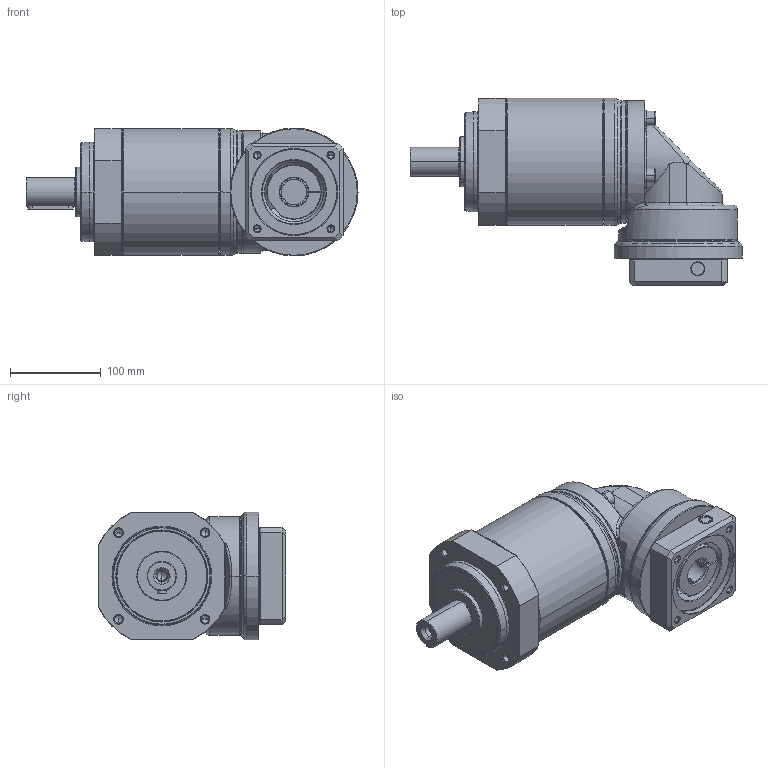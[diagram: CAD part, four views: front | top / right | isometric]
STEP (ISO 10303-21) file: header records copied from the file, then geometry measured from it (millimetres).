
FILE_DESCRIPTION((''),'2;1');
FILE_NAME('PS2R-E_2ST_28-P0411600101_ASM','2016-06-01T',('d01943'),(''),'PRO/ENGINEER BY PARAMETRIC TECHNOLOGY CORPORATION, 2008410','PRO/ENGINEER BY PARAMETRIC TECHNOLOGY CORPORATION, 2008410','');
FILE_SCHEMA(('CONFIG_CONTROL_DESIGN'));
Length unit declared in the file: millimetre
Products named in the file (12): P1328510001; P0251500001; P0350501401; P1349500001; P1017500001; P0713502001; P0503600008; P1350500201; P0411600101; P1702500001; 2111BA10040; PS2R-E_2ST_28-P0411600101_ASM
Assembly tree (14 placements, depth 2):
  PS2R-E_2ST_28-P0411600101_ASM
    P1328510001
    P0251500001
    P0350501401
    P1349500001
    P1017500001
    P0713502001
    P0503600008
    P1350500201
    P0411600101
    P1702500001
    2111BA10040  x4
Bounding box: 366 x 206.5 x 141 mm (x, y, z)
Volume: 2670705.2 mm3; surface area: 473344.6 mm2
Topology: 14 solids, 14 shells, 728 faces, 1604 edges, 923 vertices
Faces by surface type: cylinder 216, cone 212, plane 166, torus 100, bspline 34
Entity records: 23071 total; most frequent: CARTESIAN_POINT 9055, DIRECTION 3090, ORIENTED_EDGE 2720, EDGE_CURVE 1360, AXIS2_PLACEMENT_3D 1299, VERTEX_POINT 803, EDGE_LOOP 705, CIRCLE 678
